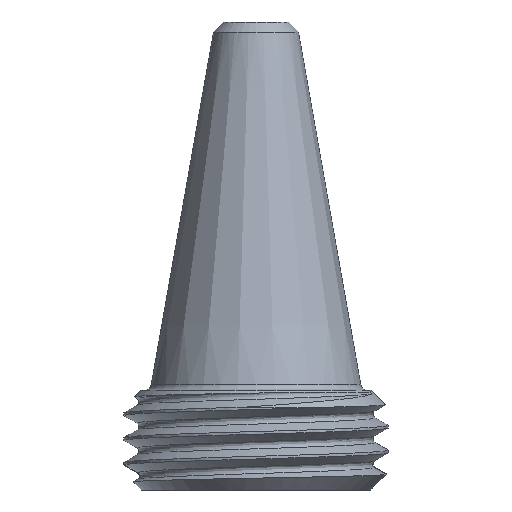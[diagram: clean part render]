
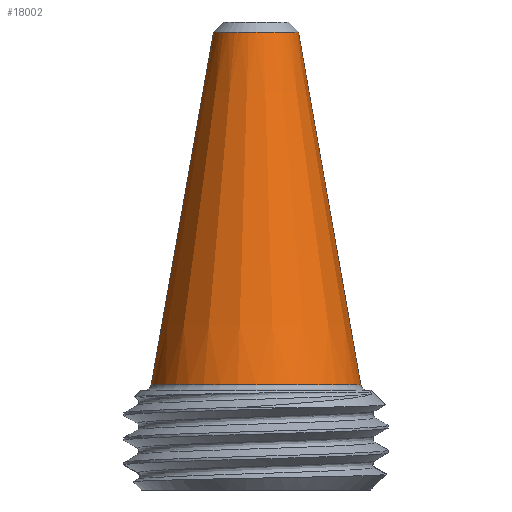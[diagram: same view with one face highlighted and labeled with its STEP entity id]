
A CAD part, front view. The second image highlights one B-rep face of the part: STEP entity #18002.
In plain terms, the highlighted conical face has half-angle 10 degrees and reference radius 6.345 mm.
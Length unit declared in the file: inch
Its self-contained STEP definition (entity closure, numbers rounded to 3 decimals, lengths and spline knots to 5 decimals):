
#1224 = CARTESIAN_POINT ( 'NONE',  ( 0.24978, 0., 0.25058 ) ) ;
#1917 = CARTESIAN_POINT ( 'NONE',  ( 0., 0., 1.09186 ) ) ;
#2134 = CARTESIAN_POINT ( 'NONE',  ( -0.10144, 0., 1.09186 ) ) ;
#2330 = CARTESIAN_POINT ( 'NONE',  ( -0.24978, 0., 0.25058 ) ) ;
#2337 = CARTESIAN_POINT ( 'NONE',  ( 0., 0., 0.25058 ) ) ;
#2471 = CIRCLE ( 'NONE', #16462, 0.10144 ) ;
#3909 = ORIENTED_EDGE ( 'NONE', *, *, #12996, .F. ) ;
#3998 = VECTOR ( 'NONE', #7023, 39.37008 ) ;
#4538 = VERTEX_POINT ( 'NONE', #17364 ) ;
#4750 = DIRECTION ( 'NONE',  ( 0., 0., 1. ) ) ;
#5515 = LINE ( 'NONE', #1224, #3998 ) ;
#5828 = LINE ( 'NONE', #13754, #10340 ) ;
#7023 = DIRECTION ( 'NONE',  ( 0.174, 0., -0.985 ) ) ;
#7050 = VERTEX_POINT ( 'NONE', #2330 ) ;
#7162 = EDGE_CURVE ( 'NONE', #10179, #4538, #2471, .T. ) ;
#7190 = EDGE_CURVE ( 'NONE', #7050, #13627, #16469, .T. ) ;
#8118 = DIRECTION ( 'NONE',  ( 1., 0., 0. ) ) ;
#8434 = FACE_OUTER_BOUND ( 'NONE', #8944, .T. ) ;
#8944 = EDGE_LOOP ( 'NONE', ( #3909, #10409, #15290, #11478 ) ) ;
#10179 = VERTEX_POINT ( 'NONE', #2134 ) ;
#10340 = VECTOR ( 'NONE', #10975, 39.37008 ) ;
#10409 = ORIENTED_EDGE ( 'NONE', *, *, #7162, .F. ) ;
#10975 = DIRECTION ( 'NONE',  ( -0.174, 0., -0.985 ) ) ;
#11478 = ORIENTED_EDGE ( 'NONE', *, *, #7190, .T. ) ;
#12874 = AXIS2_PLACEMENT_3D ( 'NONE', #2337, #15132, #16596 ) ;
#12996 = EDGE_CURVE ( 'NONE', #4538, #13627, #5515, .T. ) ;
#13187 = CARTESIAN_POINT ( 'NONE',  ( 0.24978, 0., 0.25058 ) ) ;
#13534 = CONICAL_SURFACE ( 'NONE', #12874, 0.24978, 0.175 ) ;
#13627 = VERTEX_POINT ( 'NONE', #13187 ) ;
#13754 = CARTESIAN_POINT ( 'NONE',  ( -0.24978, 0., 0.25058 ) ) ;
#14119 = DIRECTION ( 'NONE',  ( 0., 0., 1. ) ) ;
#14221 = DIRECTION ( 'NONE',  ( 1., 0., 0. ) ) ;
#15132 = DIRECTION ( 'NONE',  ( 0., 0., -1. ) ) ;
#15290 = ORIENTED_EDGE ( 'NONE', *, *, #17064, .T. ) ;
#16462 = AXIS2_PLACEMENT_3D ( 'NONE', #1917, #4750, #14221 ) ;
#16469 = CIRCLE ( 'NONE', #19721, 0.24978 ) ;
#16596 = DIRECTION ( 'NONE',  ( -1., 0., 0. ) ) ;
#17064 = EDGE_CURVE ( 'NONE', #10179, #7050, #5828, .T. ) ;
#17299 = CARTESIAN_POINT ( 'NONE',  ( 0., 0., 0.25058 ) ) ;
#17364 = CARTESIAN_POINT ( 'NONE',  ( 0.10144, 0., 1.09186 ) ) ;
#18002 = ADVANCED_FACE ( 'NONE', ( #8434 ), #13534, .T. ) ;
#19721 = AXIS2_PLACEMENT_3D ( 'NONE', #17299, #14119, #8118 ) ;
